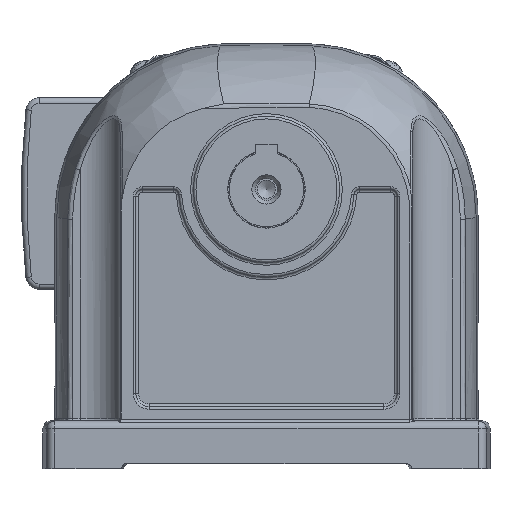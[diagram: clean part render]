
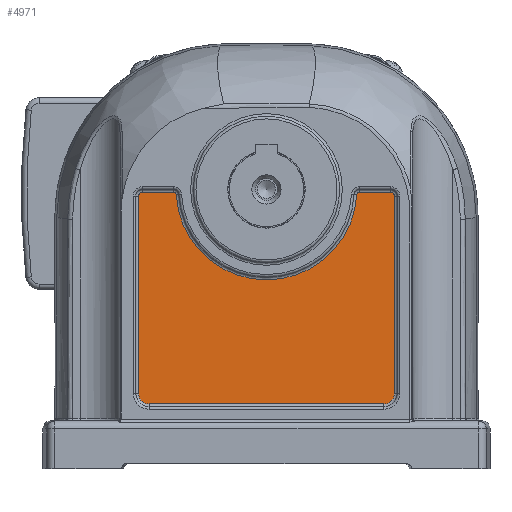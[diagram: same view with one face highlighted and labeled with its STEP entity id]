
A CAD part, front view. The second image highlights one B-rep face of the part: STEP entity #4971.
In plain terms, the highlighted planar face has unit normal (0, -1, 0).
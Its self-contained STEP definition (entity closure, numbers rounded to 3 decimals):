
#4971 = ADVANCED_FACE( '', ( #10560 ), #10561, .F. );
#10560 = FACE_OUTER_BOUND( '', #31545, .T. );
#10561 = PLANE( '', #31546 );
#31545 = EDGE_LOOP( '', ( #48970, #48971, #48972, #48973, #48974, #48975, #48976, #48977, #48978, #48979, #48980, #48981 ) );
#31546 = AXIS2_PLACEMENT_3D( '', #48982, #48983, #48984 );
#48970 = ORIENTED_EDGE( '', *, *, #57620, .T. );
#48971 = ORIENTED_EDGE( '', *, *, #53961, .T. );
#48972 = ORIENTED_EDGE( '', *, *, #55978, .T. );
#48973 = ORIENTED_EDGE( '', *, *, #56436, .T. );
#48974 = ORIENTED_EDGE( '', *, *, #56055, .T. );
#48975 = ORIENTED_EDGE( '', *, *, #56380, .T. );
#48976 = ORIENTED_EDGE( '', *, *, #58013, .T. );
#48977 = ORIENTED_EDGE( '', *, *, #57540, .T. );
#48978 = ORIENTED_EDGE( '', *, *, #58867, .T. );
#48979 = ORIENTED_EDGE( '', *, *, #57686, .T. );
#48980 = ORIENTED_EDGE( '', *, *, #58868, .T. );
#48981 = ORIENTED_EDGE( '', *, *, #57148, .T. );
#48982 = CARTESIAN_POINT( '', ( 212.528, -3.915, -2. ) );
#48983 = DIRECTION( '', ( 0., 1., 0. ) );
#48984 = DIRECTION( '', ( 0., 0., 1. ) );
#53961 = EDGE_CURVE( '', #61161, #61159, #61162, .F. );
#55978 = EDGE_CURVE( '', #61159, #64440, #64442, .F. );
#56055 = EDGE_CURVE( '', #64552, #64550, #64553, .F. );
#56380 = EDGE_CURVE( '', #64550, #65023, #65025, .F. );
#56436 = EDGE_CURVE( '', #64440, #64552, #65102, .T. );
#57148 = EDGE_CURVE( '', #66103, #66105, #66107, .F. );
#57540 = EDGE_CURVE( '', #66653, #66650, #66654, .F. );
#57620 = EDGE_CURVE( '', #66105, #61161, #66755, .F. );
#57686 = EDGE_CURVE( '', #66836, #66838, #66840, .F. );
#58013 = EDGE_CURVE( '', #65023, #66653, #67258, .F. );
#58867 = EDGE_CURVE( '', #66650, #66836, #68269, .F. );
#58868 = EDGE_CURVE( '', #66838, #66103, #68270, .F. );
#61159 = VERTEX_POINT( '', #72967 );
#61161 = VERTEX_POINT( '', #72969 );
#61162 = LINE( '', #72970, #72971 );
#64440 = VERTEX_POINT( '', #80636 );
#64442 = CIRCLE( '', #80638, 1. );
#64550 = VERTEX_POINT( '', #81049 );
#64552 = VERTEX_POINT( '', #81051 );
#64553 = CIRCLE( '', #81052, 1. );
#65023 = VERTEX_POINT( '', #82038 );
#65025 = LINE( '', #82040, #82041 );
#65102 = CIRCLE( '', #82199, 34. );
#66103 = VERTEX_POINT( '', #84520 );
#66105 = VERTEX_POINT( '', #84522 );
#66107 = LINE( '', #84524, #84525 );
#66650 = VERTEX_POINT( '', #85553 );
#66653 = VERTEX_POINT( '', #85556 );
#66654 = LINE( '', #85557, #85558 );
#66755 = CIRCLE( '', #86072, 1.5 );
#66836 = VERTEX_POINT( '', #86189 );
#66838 = VERTEX_POINT( '', #86191 );
#66840 = LINE( '', #86193, #86194 );
#67258 = CIRCLE( '', #87053, 1.5 );
#68269 = CIRCLE( '', #89332, 4. );
#68270 = CIRCLE( '', #89333, 4. );
#72967 = CARTESIAN_POINT( '', ( 212.528, -3.915, -1. ) );
#72969 = CARTESIAN_POINT( '', ( 224.185, -3.915, -1. ) );
#72970 = CARTESIAN_POINT( '', ( 212.528, -3.915, -1. ) );
#72971 = VECTOR( '', #92152, 1000. );
#80636 = CARTESIAN_POINT( '', ( 211.529, -3.915, -1.943 ) );
#80638 = AXIS2_PLACEMENT_3D( '', #94932, #94933, #94934 );
#81049 = CARTESIAN_POINT( '', ( 142.642, -3.915, -1. ) );
#81051 = CARTESIAN_POINT( '', ( 143.641, -3.915, -1.943 ) );
#81052 = AXIS2_PLACEMENT_3D( '', #95039, #95040, #95041 );
#82038 = CARTESIAN_POINT( '', ( 130.985, -3.915, -1. ) );
#82040 = CARTESIAN_POINT( '', ( 212.528, -3.915, -1. ) );
#82041 = VECTOR( '', #95491, 1000. );
#82199 = AXIS2_PLACEMENT_3D( '', #95570, #95571, #95572 );
#84520 = CARTESIAN_POINT( '', ( 225.685, -3.915, -76.6 ) );
#84522 = CARTESIAN_POINT( '', ( 225.685, -3.915, -2.5 ) );
#84524 = CARTESIAN_POINT( '', ( 225.685, -3.915, -2. ) );
#84525 = VECTOR( '', #96434, 1000. );
#85553 = CARTESIAN_POINT( '', ( 129.485, -3.915, -76.6 ) );
#85556 = CARTESIAN_POINT( '', ( 129.485, -3.915, -2.5 ) );
#85557 = CARTESIAN_POINT( '', ( 129.485, -3.915, -2. ) );
#85558 = VECTOR( '', #97037, 1000. );
#86072 = AXIS2_PLACEMENT_3D( '', #97122, #97123, #97124 );
#86189 = CARTESIAN_POINT( '', ( 133.485, -3.915, -80.6 ) );
#86191 = CARTESIAN_POINT( '', ( 221.685, -3.915, -80.6 ) );
#86193 = CARTESIAN_POINT( '', ( 212.528, -3.915, -80.6 ) );
#86194 = VECTOR( '', #97197, 1000. );
#87053 = AXIS2_PLACEMENT_3D( '', #97547, #97548, #97549 );
#89332 = AXIS2_PLACEMENT_3D( '', #98457, #98458, #98459 );
#89333 = AXIS2_PLACEMENT_3D( '', #98460, #98461, #98462 );
#92152 = DIRECTION( '', ( 1., 0., 0. ) );
#94932 = CARTESIAN_POINT( '', ( 212.528, -3.915, -2. ) );
#94933 = DIRECTION( '', ( 0., 1., 0. ) );
#94934 = DIRECTION( '', ( 0., 0., 1. ) );
#95039 = CARTESIAN_POINT( '', ( 142.642, -3.915, -2. ) );
#95040 = DIRECTION( '', ( 0., 1., 0. ) );
#95041 = DIRECTION( '', ( 0., 0., 1. ) );
#95491 = DIRECTION( '', ( 1., 0., 0. ) );
#95570 = CARTESIAN_POINT( '', ( 177.585, -3.915, 0. ) );
#95571 = DIRECTION( '', ( 0., 1., 0. ) );
#95572 = DIRECTION( '', ( 0., 0., 1. ) );
#96434 = DIRECTION( '', ( 0., 0., -1. ) );
#97037 = DIRECTION( '', ( 0., 0., 1. ) );
#97122 = CARTESIAN_POINT( '', ( 224.185, -3.915, -2.5 ) );
#97123 = DIRECTION( '', ( 0., 1., 0. ) );
#97124 = DIRECTION( '', ( 0., 0., 1. ) );
#97197 = DIRECTION( '', ( -1., 0., 0. ) );
#97547 = CARTESIAN_POINT( '', ( 130.985, -3.915, -2.5 ) );
#97548 = DIRECTION( '', ( 0., 1., 0. ) );
#97549 = DIRECTION( '', ( 0., 0., 1. ) );
#98457 = CARTESIAN_POINT( '', ( 133.485, -3.915, -76.6 ) );
#98458 = DIRECTION( '', ( 0., 1., 0. ) );
#98459 = DIRECTION( '', ( 0., 0., 1. ) );
#98460 = CARTESIAN_POINT( '', ( 221.685, -3.915, -76.6 ) );
#98461 = DIRECTION( '', ( 0., 1., 0. ) );
#98462 = DIRECTION( '', ( 0., 0., 1. ) );
